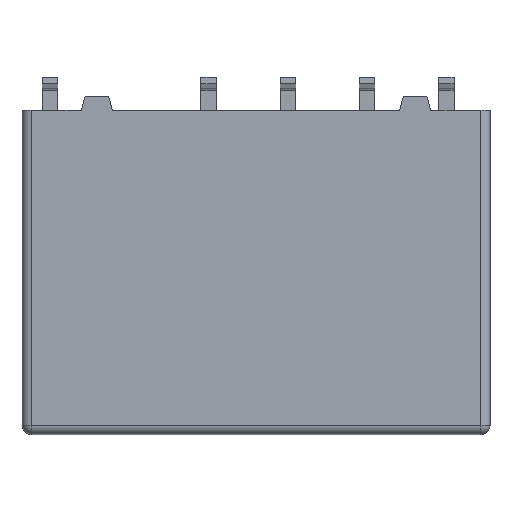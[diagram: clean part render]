
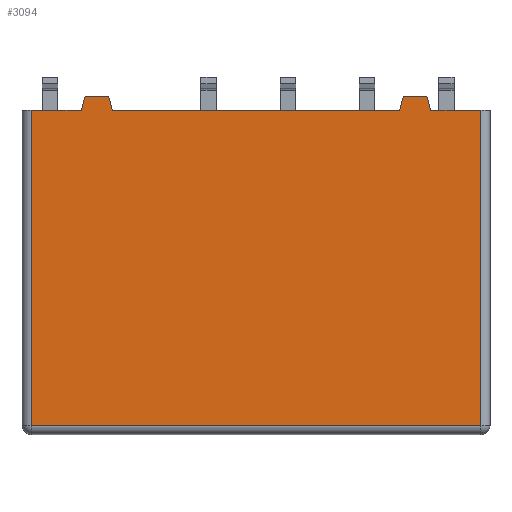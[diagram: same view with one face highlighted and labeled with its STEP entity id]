
A CAD part, front view. The second image highlights one B-rep face of the part: STEP entity #3094.
In plain terms, the highlighted planar face has unit normal (0, -1, 0).
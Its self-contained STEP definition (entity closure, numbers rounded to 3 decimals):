
#47=DIRECTION('',(1.,0.,0.));
#48=VECTOR('',#47,9.2);
#49=CARTESIAN_POINT('',(-4.6,-3.75,-0.45));
#50=LINE('',#49,#48);
#69=DIRECTION('',(1.,0.,0.));
#70=VECTOR('',#69,1.6);
#71=CARTESIAN_POINT('',(5.6,-3.75,-0.45));
#72=LINE('',#71,#70);
#198=DIRECTION('',(1.,0.,0.));
#199=VECTOR('',#198,1.6);
#200=CARTESIAN_POINT('',(-7.2,-3.75,-0.45));
#201=LINE('',#200,#199);
#345=DIRECTION('',(0.,0.,-1.));
#346=VECTOR('',#345,10.1);
#347=CARTESIAN_POINT('',(7.2,-3.75,-0.45));
#348=LINE('',#347,#346);
#352=DIRECTION('',(-1.,0.,0.));
#353=VECTOR('',#352,14.4);
#354=CARTESIAN_POINT('',(7.2,-3.75,-10.55));
#355=LINE('',#354,#353);
#359=DIRECTION('',(0.,0.,-1.));
#360=VECTOR('',#359,10.1);
#361=CARTESIAN_POINT('',(-7.2,-3.75,-0.45));
#362=LINE('',#361,#360);
#366=DIRECTION('',(-0.259,0.,-0.966));
#367=VECTOR('',#366,0.466);
#368=CARTESIAN_POINT('',(-5.479,-3.75,0.));
#369=LINE('',#368,#367);
#373=DIRECTION('',(-1.,0.,0.));
#374=VECTOR('',#373,0.759);
#375=CARTESIAN_POINT('',(-4.721,-3.75,0.));
#376=LINE('',#375,#374);
#380=DIRECTION('',(-0.259,0.,0.966));
#381=VECTOR('',#380,0.466);
#382=CARTESIAN_POINT('',(-4.6,-3.75,-0.45));
#383=LINE('',#382,#381);
#387=DIRECTION('',(-0.259,0.,-0.966));
#388=VECTOR('',#387,0.466);
#389=CARTESIAN_POINT('',(4.721,-3.75,0.));
#390=LINE('',#389,#388);
#394=DIRECTION('',(-1.,0.,0.));
#395=VECTOR('',#394,0.759);
#396=CARTESIAN_POINT('',(5.479,-3.75,0.));
#397=LINE('',#396,#395);
#401=DIRECTION('',(-0.259,0.,0.966));
#402=VECTOR('',#401,0.466);
#403=CARTESIAN_POINT('',(5.6,-3.75,-0.45));
#404=LINE('',#403,#402);
#2413=CARTESIAN_POINT('',(5.479,-3.75,0.));
#2414=CARTESIAN_POINT('',(4.721,-3.75,0.));
#2415=VERTEX_POINT('',#2413);
#2416=VERTEX_POINT('',#2414);
#2417=CARTESIAN_POINT('',(-4.721,-3.75,0.));
#2418=CARTESIAN_POINT('',(-5.479,-3.75,0.));
#2419=VERTEX_POINT('',#2417);
#2420=VERTEX_POINT('',#2418);
#2429=CARTESIAN_POINT('',(-4.6,-3.75,-0.45));
#2430=CARTESIAN_POINT('',(4.6,-3.75,-0.45));
#2431=VERTEX_POINT('',#2429);
#2432=VERTEX_POINT('',#2430);
#2433=CARTESIAN_POINT('',(5.6,-3.75,-0.45));
#2434=VERTEX_POINT('',#2433);
#2435=CARTESIAN_POINT('',(-5.6,-3.75,-0.45));
#2436=VERTEX_POINT('',#2435);
#2493=CARTESIAN_POINT('',(7.2,-3.75,-0.45));
#2495=VERTEX_POINT('',#2493);
#2499=CARTESIAN_POINT('',(7.2,-3.75,-10.55));
#2500=VERTEX_POINT('',#2499);
#2502=CARTESIAN_POINT('',(-7.2,-3.75,-0.45));
#2504=VERTEX_POINT('',#2502);
#2505=CARTESIAN_POINT('',(-7.2,-3.75,-10.55));
#2506=VERTEX_POINT('',#2505);
#3067=CARTESIAN_POINT('',(-7.5,-3.75,-0.45));
#3068=DIRECTION('',(0.,-1.,0.));
#3069=DIRECTION('',(1.,0.,0.));
#3070=AXIS2_PLACEMENT_3D('',#3067,#3068,#3069);
#3071=PLANE('',#3070);
#3073=ORIENTED_EDGE('',*,*,#3072,.T.);
#3075=ORIENTED_EDGE('',*,*,#3074,.T.);
#3076=ORIENTED_EDGE('',*,*,#3059,.F.);
#3077=ORIENTED_EDGE('',*,*,#2936,.T.);
#3079=ORIENTED_EDGE('',*,*,#3078,.F.);
#3081=ORIENTED_EDGE('',*,*,#3080,.F.);
#3083=ORIENTED_EDGE('',*,*,#3082,.F.);
#3084=ORIENTED_EDGE('',*,*,#2878,.T.);
#3086=ORIENTED_EDGE('',*,*,#3085,.F.);
#3088=ORIENTED_EDGE('',*,*,#3087,.F.);
#3090=ORIENTED_EDGE('',*,*,#3089,.F.);
#3091=ORIENTED_EDGE('',*,*,#2892,.T.);
#3092=EDGE_LOOP('',(#3073,#3075,#3076,#3077,#3079,#3081,#3083,#3084,#3086,#3088,
#3090,#3091));
#3093=FACE_OUTER_BOUND('',#3092,.F.);
#2878=EDGE_CURVE('',#2431,#2432,#50,.T.);
#2892=EDGE_CURVE('',#2434,#2495,#72,.T.);
#2936=EDGE_CURVE('',#2504,#2436,#201,.T.);
#3059=EDGE_CURVE('',#2504,#2506,#362,.T.);
#3072=EDGE_CURVE('',#2495,#2500,#348,.T.);
#3074=EDGE_CURVE('',#2500,#2506,#355,.T.);
#3078=EDGE_CURVE('',#2420,#2436,#369,.T.);
#3080=EDGE_CURVE('',#2419,#2420,#376,.T.);
#3082=EDGE_CURVE('',#2431,#2419,#383,.T.);
#3085=EDGE_CURVE('',#2416,#2432,#390,.T.);
#3087=EDGE_CURVE('',#2415,#2416,#397,.T.);
#3089=EDGE_CURVE('',#2434,#2415,#404,.T.);
#3094=ADVANCED_FACE('',(#3093),#3071,.T.);
